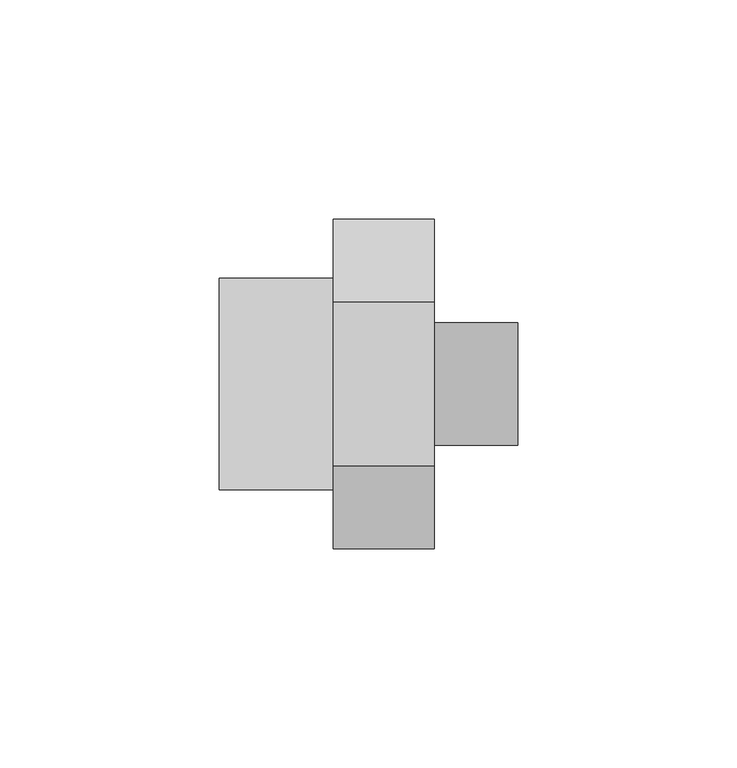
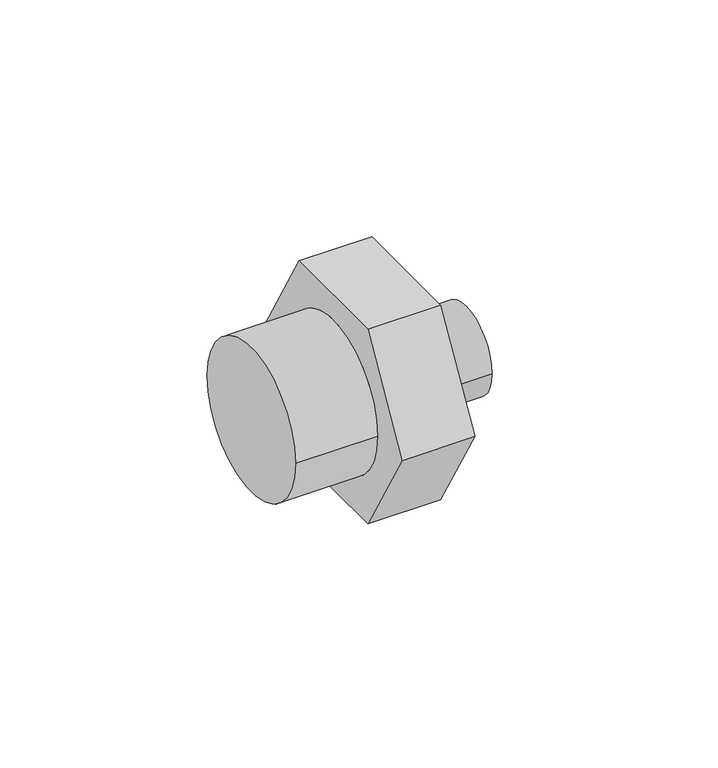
"""IFC4 building model written with IfcOpenShell, lengths in millimetres: pipe fitting geometry, 01011197 : Machones doble rosca reducidas."""

from ifc_helpers import new_model, si_unit, frame, origin, place, context, project, spatial, circle_curve, source, transform, mapped, element, save
from ifc_brep_helpers import plane_surface, cylinder_surface, advanced_brep


def pipe_fitting_55cd272a(model_context):
    return source(origin(), model_context, "Body", "AdvancedBrep", [
        advanced_brep(
        [(49.0, -18.7638837, 32.5), (49.0, -37.5277675, 0.0), (49.0, -18.7638837, -32.5), (49.0, 18.7638837, -32.5), (49.0, 37.5277675, 0.0), (49.0, 18.7638837, 32.5), (49.0, -13.97, 0.0), (49.0, 13.97, 0.0), (26.0, -18.7638837, 32.5), (26.0, 18.7638837, 32.5), (26.0, 37.5277675, 0.0), (26.0, 18.7638837, -32.5), (26.0, -18.7638837, -32.5), (26.0, -37.5277675, 0.0), (26.0, 24.13, 0.0), (26.0, -24.13, 0.0), (68.0, -13.97, 0.0), (68.0, 13.97, 0.0), (0.0, 24.13, 0.0), (0.0, -24.13, 0.0)],
        [
            (0, 1),
            (1, 2),
            (2, 3),
            (3, 4),
            (4, 5),
            (5, 0),
            (6, 7, circle_curve(frame((49.0, 0.0, 0.0), z_axis=(-1.0, 0.0, 0.0), x_axis=(0.0, 1.0, 0.0)), 13.97)),
            (7, 6, circle_curve(frame((49.0, 0.0, 0.0), z_axis=(-1.0, 0.0, 0.0), x_axis=(0.0, 1.0, 0.0)), 13.97)),
            (8, 9),
            (9, 10),
            (10, 11),
            (11, 12),
            (12, 13),
            (13, 8),
            (14, 15, circle_curve(frame((26.0, 0.0, 0.0), z_axis=(1.0, 0.0, 0.0), x_axis=(0.0, -1.0, 0.0)), 24.13)),
            (15, 14, circle_curve(frame((26.0, 0.0, 0.0), z_axis=(1.0, 0.0, 0.0), x_axis=(0.0, -1.0, 0.0)), 24.13)),
            (0, 8),
            (13, 1),
            (12, 2),
            (11, 3),
            (10, 4),
            (9, 5),
            (16, 17, circle_curve(frame((68.0, 0.0, 0.0), z_axis=(1.0, 0.0, 0.0), x_axis=(0.0, 1.0, 0.0)), 13.97)),
            (17, 16, circle_curve(frame((68.0, 0.0, 0.0), z_axis=(1.0, 0.0, 0.0), x_axis=(0.0, 1.0, 0.0)), 13.97)),
            (17, 7),
            (6, 16),
            (18, 19, circle_curve(frame((0.0, 0.0, 0.0), z_axis=(-1.0, 0.0, 0.0), x_axis=(0.0, -1.0, 0.0)), 24.13)),
            (19, 18, circle_curve(frame((0.0, 0.0, 0.0), z_axis=(-1.0, 0.0, 0.0), x_axis=(0.0, -1.0, 0.0)), 24.13)),
            (19, 15),
            (14, 18),
        ],
        [
            plane_surface(frame((49.0, -18.7638837, 32.5), z_axis=(1.0000000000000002, 0.0, 0.0), x_axis=(0.0, -0.5000000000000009, -0.8660254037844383))),
            plane_surface(frame((26.0, -18.7638837, 32.5), z_axis=(-1.0000000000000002, 0.0, 0.0), x_axis=(0.0, 0.5000000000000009, 0.8660254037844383))),
            plane_surface(frame((49.0, -18.7638837, 32.5), z_axis=(0.0, -0.8660254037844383, 0.5000000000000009), x_axis=(-1.0, 0.0, 0.0))),
            plane_surface(frame((49.0, -37.5277675, 0.0), z_axis=(0.0, -0.8660254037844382, -0.5000000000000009), x_axis=(-1.0, 0.0, 0.0))),
            plane_surface(frame((49.0, -18.7638837, -32.5), z_axis=(0.0, 0.0, -1.0), x_axis=(-1.0, 0.0, 0.0))),
            plane_surface(frame((49.0, 18.7638837, -32.5), z_axis=(0.0, 0.8660254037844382, -0.5000000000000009), x_axis=(-1.0, 0.0, 0.0))),
            plane_surface(frame((49.0, 37.5277675, 0.0), z_axis=(0.0, 0.8660254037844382, 0.500000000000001), x_axis=(-1.0, 0.0, 0.0))),
            plane_surface(frame((49.0, 18.7638837, 32.5), z_axis=(0.0, 0.0, 1.0), x_axis=(-1.0, 0.0, 0.0))),
            plane_surface(frame((68.0, 0.0, 0.0), z_axis=(1.0, 0.0, 0.0), x_axis=(0.0, 0.0, 1.0))),
            cylinder_surface(frame((49.0, 0.0, 0.0), z_axis=(-1.0, 0.0, 0.0), x_axis=(0.0, 1.0, 0.0)), 13.97),
            plane_surface(frame((0.0, 0.0, 0.0), z_axis=(-1.0, 0.0, 0.0), x_axis=(0.0, 0.0, 1.0))),
            cylinder_surface(frame((26.0, 0.0, 0.0), z_axis=(1.0, 0.0, 0.0), x_axis=(0.0, -1.0, 0.0)), 24.13),
        ],
        [
            (0, [[1, 2, 3, 4, 5, 6], [7, 8]]),
            (1, [[9, 10, 11, 12, 13, 14], [15, 16]]),
            (2, [[-1, 17, -14, 18]]),
            (3, [[-2, -18, -13, 19]]),
            (4, [[-3, -19, -12, 20]]),
            (5, [[-4, -20, -11, 21]]),
            (6, [[-5, -21, -10, 22]]),
            (7, [[-6, -22, -9, -17]]),
            (8, [[23, 24]]),
            (9, [[-24, 25, -7, 26]]),
            (9, [[-23, -26, -8, -25]]),
            (10, [[27, 28]]),
            (11, [[-28, 29, -15, 30]]),
            (11, [[-27, -30, -16, -29]]),
        ],
    ),
    ])


if __name__ == "__main__":
    model = new_model("IFC4")
    model_context = context("Model", 3, world=origin())
    ifc_project = project(units=[si_unit("LENGTHUNIT", "METRE", prefix="MILLI")], contexts=[model_context])
    site = spatial("IfcSite", under=ifc_project)
    building = spatial("IfcBuilding", under=site)
    placement = place(None, origin())
    pipe_fitting_shape = pipe_fitting_55cd272a(model_context)
    element("IfcPipeFitting", 1, ObjectType="01011197 : Machones doble rosca reducidas", at=placement, inside=building, context=model_context, shape_type="MappedRepresentation", body=[
        mapped(pipe_fitting_shape, transform((0.0, 0.0, 0.0), x_axis=(1.0, 0.0, 0.0), y_axis=(0.0, 1.0, 0.0), z_axis=(0.0, 0.0, 1.0))),
    ])
    save(model, "model.ifc")
